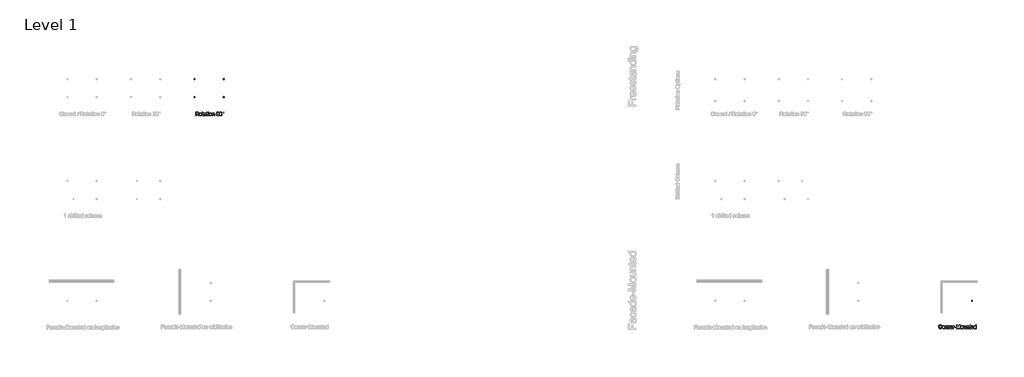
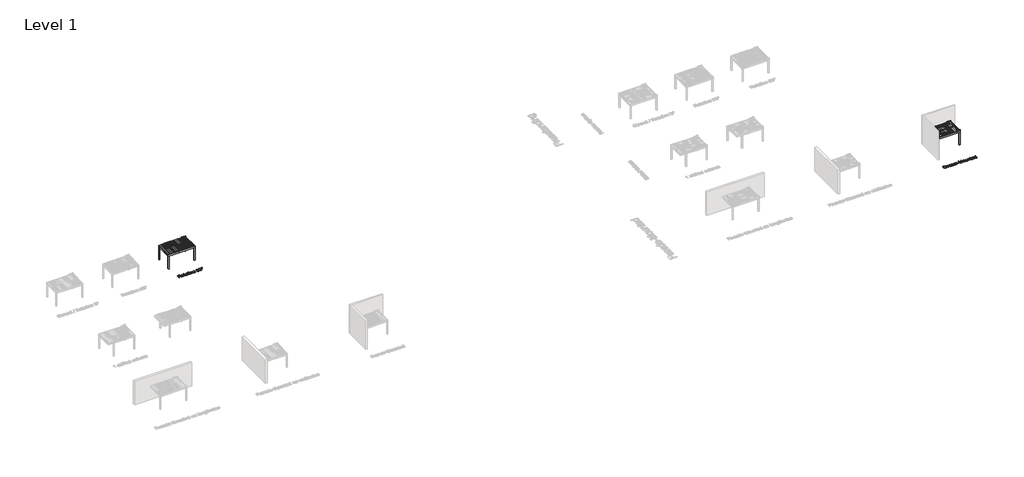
# One storey, part 32 of 47: 4 proxies.
"""IFC4 building model written with IfcOpenShell, lengths in millimetres."""

from ifc_helpers import new_model, si_unit, origin, origin_with_axes, place, context, project, spatial, polyline, outline, extrude, transform, mapped, element, save
from components import generic_models_7f1426e4, generic_models_a48c7f24

model = new_model("IFC4")

# Units and contexts
model_context = context("Model", 3, world=origin())
ifc_project = project(units=[si_unit("LENGTHUNIT", "METRE", prefix="MILLI")], contexts=[model_context])

# Site, building, storey
site = spatial("IfcSite", under=ifc_project)
building = spatial("IfcBuilding", under=site)
storey = spatial("IfcBuildingStorey", under=building, Name="Level 1", Elevation=0.0)

# Proxies
placement = place(None, origin())
generic_models_shape = generic_models_7f1426e4(model_context)
element("IfcBuildingElementProxy", 1, Name="Renson_Algarve_Single : Algarve - Single", ObjectType="Renson_Algarve_Single : Algarve - Single", at=placement, inside=storey, context=model_context, shape_type="MappedRepresentation", body=[
    mapped(generic_models_shape, transform((7528.165057, 67778.5861401, 0.0), x_axis=(1.0, 0.0, 0.0), y_axis=(0.0, 1.0, 0.0), z_axis=(0.0, 0.0, 1.0))),
])
generic_models_2_shape = generic_models_a48c7f24(model_context)
element("IfcBuildingElementProxy", 2, Name="Renson_Algarve_Single Unit With Intermediate Beam : Algarve - Single Unit With Intermediate Beam", ObjectType="Renson_Algarve_Single Unit With Intermediate Beam : Algarve - Single Unit With Intermediate Beam", at=placement, inside=storey, context=model_context, shape_type="MappedRepresentation", body=[
    mapped(generic_models_2_shape, transform((106674.7862597, 41397.1593685, 0.0), x_axis=(1.0, 0.0, 0.0), y_axis=(0.0, 1.0, 0.0), z_axis=(0.0, 0.0, 1.0))),
])
element("IfcBuildingElementProxy", 3, Name="500mm Arial", ObjectType="500mm Arial", at=placement, inside=storey, context=model_context, shape_type="SweptSolid", body=[
    extrude(outline(polyline([(5745.311698, 64128.5861401), (5745.311698, 64630.8676909), (5961.7489385, 64630.8676909), (6019.920279, 64627.4801108), (6062.2420369, 64617.3173707), (6093.1747813, 64598.555389), (6117.1790815, 64569.370084), (6132.5841401, 64533.1796927), (6137.7191596, 64493.402452), (6135.5923418, 64467.6047271), (6129.2118884, 64443.9223237), (6118.5777995, 64422.3552417), (6103.690075, 64402.9034812), (6084.3571097, 64386.187843), (6060.3872985, 64372.8291281), (6031.7806413, 64362.8273364), (5998.5371381, 64356.1824678), (6019.2305003, 64342.6628045), (6034.2216916, 64329.3270822), (6085.1120343, 64264.7024784), (6168.8665018, 64128.5861401), (6095.9032394, 64128.5861401), (6030.5428716, 64232.6967448), (5983.3313489, 64301.6133052), (5965.7803121, 64321.7088592), (5950.1606557, 64334.1708618), (5920.3009004, 64346.1270266), (5883.8805829, 64348.3343186), (5808.0968919, 64348.3343186), (5808.0968919, 64128.5861401), (5745.311698, 64128.5861401)]), holes=[polyline([(5808.0968919, 64411.1195124), (5948.627814, 64411.1195124), (5988.9875346, 64413.3421328), (6020.3034894, 64420.009994), (6043.878594, 64431.56762), (6061.0157636, 64448.4595349), (6071.4544152, 64468.8923141), (6074.9339657, 64491.0725327), (6073.2746646, 64507.129049), (6068.2967614, 64521.6987088), (6060.000256, 64534.7815123), (6048.3851484, 64546.3774593), (6033.1831914, 64555.8734133), (6014.1261376, 64562.6562376), (5964.4467398, 64568.082497), (5808.0968919, 64568.082497), (5808.0968919, 64411.1195124)])]), origin_with_axes(), (0.0, 0.0, 1.0), 5.0),
    extrude(outline(polyline([(6224.0488011, 64313.0176471), (6227.4440453, 64360.788657), (6237.6297781, 64401.9531194), (6254.6059993, 64436.5110343), (6278.3727091, 64464.4624017), (6302.3003672, 64482.3276711), (6328.7112287, 64495.0885778), (6357.6052938, 64502.7451219), (6388.9825623, 64505.2973032), (6423.6209514, 64502.1894668), (6454.9407383, 64492.8659574), (6482.9419231, 64477.3267753), (6507.6245057, 64455.5719202), (6527.7698771, 64428.3371562), (6542.159428, 64396.3582474), (6550.7931586, 64359.6351936), (6553.6710688, 64318.167995), (6548.5820345, 64254.7390076), (6542.2207417, 64228.7036923), (6533.3149317, 64206.4544958), (6521.9757356, 64187.2364936), (6508.3142845, 64170.2947613), (6492.3305782, 64155.6292989), (6474.0246168, 64143.2401063), (6433.2970143, 64126.3635197), (6388.9825623, 64120.7379909), (6353.8383354, 64123.834331), (6322.2273086, 64133.1233514), (6294.1494817, 64148.605052), (6269.6048548, 64170.2794329), (6249.6740813, 64197.7786121), (6235.4378145, 64230.7347075), (6226.8960545, 64269.1477191), (6224.0488011, 64313.0176471)]), holes=[polyline([(6286.8339949, 64313.1402744), (6288.6504123, 64282.686543), (6294.0996644, 64256.3178345), (6303.1817511, 64234.0341491), (6315.8966726, 64215.8354867), (6331.3630448, 64201.6988546), (6348.6994838, 64191.6012602), (6367.9059896, 64185.5427036), (6388.9825623, 64183.5231847), (6409.951836, 64185.5541999), (6429.0816997, 64191.6472455), (6446.3721535, 64201.8023214), (6461.8231973, 64216.0194277), (6474.5381188, 64234.398199), (6483.6202055, 64257.0382701), (6489.0694576, 64283.939641), (6490.8858749, 64315.1023117), (6489.0579613, 64344.5903529), (6483.5742203, 64370.2692826), (6474.434652, 64392.1391007), (6461.6392563, 64410.1998074), (6446.130731, 64424.3364395), (6428.8517735, 64434.4340339), (6409.8023839, 64440.4925905), (6388.9825623, 64442.5121094), (6367.9059896, 64440.5002547), (6348.6994838, 64434.4646907), (6331.3630448, 64424.4054174), (6315.8966726, 64410.3224348), (6303.1817511, 64392.1774218), (6294.0996644, 64369.9320574), (6288.6504123, 64343.5863416), (6286.8339949, 64313.1402744)])]), origin_with_axes(), (0.0, 0.0, 1.0), 5.0),
    extrude(outline(polyline([(6757.7229488, 64180.9480108), (6765.571098, 64126.7467302), (6718.60483, 64120.7379909), (6688.4691632, 64123.3438217), (6665.9977046, 64131.1613141), (6650.1174652, 64143.2094494), (6639.7554557, 64158.5072091), (6634.0532847, 64184.7801149), (6632.1525611, 64229.7536888), (6632.1525611, 64434.6639601), (6585.0636657, 64434.6639601), (6585.0636657, 64497.449154), (6632.1525611, 64497.449154), (6632.1525611, 64587.0897335), (6694.9377549, 64624.0005603), (6694.9377549, 64497.449154), (6757.7229488, 64497.449154), (6757.7229488, 64434.6639601), (6694.9377549, 64434.6639601), (6694.9377549, 64231.5930988), (6698.2486929, 64199.2194832), (6708.9785844, 64187.7538277), (6730.3770538, 64183.5231847), (6757.7229488, 64180.9480108)])), origin_with_axes(), (0.0, 0.0, 1.0), 5.0),
    extrude(outline(polyline([(7055.9526195, 64175.6750355), (7025.9549085, 64149.9539527), (6995.0681493, 64133.1233514), (6962.5872348, 64123.834331), (6927.8070579, 64120.7379909), (6899.8518583, 64122.6003935), (6875.3378883, 64128.1876013), (6854.2651478, 64137.4996143), (6836.6336367, 64150.5364325), (6822.7116025, 64166.4703214), (6812.7672923, 64184.4735466), (6806.8007062, 64204.5461079), (6804.8118442, 64226.6880055), (6807.8162138, 64252.7156567), (6816.8293227, 64276.3520749), (6830.7321964, 64296.5855846), (6848.4058606, 64312.4045104), (6869.1758649, 64324.3606752), (6892.367759, 64333.0059021), (6946.691667, 64342.4482067), (7010.8870751, 64352.3810205), (7055.5847375, 64364.030617), (7055.9526195, 64378.0101329), (7051.6300061, 64406.0304782), (7038.6621658, 64424.3632643), (7025.5870265, 64432.303384), (7009.6608018, 64437.9748981), (6969.255096, 64442.5121094), (6931.8537598, 64439.4924113), (6905.7341382, 64430.4333172), (6887.9225182, 64413.679358), (6875.4451872, 64387.5750647), (6812.6599934, 64395.423214), (6823.5584975, 64429.7588669), (6839.8219474, 64456.7368798), (6862.9678562, 64477.3689284), (6894.5137373, 64492.666688), (6933.0953616, 64502.1396494), (6977.3484999, 64505.2973032), (7019.7928851, 64502.5075314), (7053.4387592, 64494.138216), (7078.8072885, 64481.5535861), (7096.419639, 64466.1178707), (7108.0998923, 64447.0339922), (7115.6721301, 64423.5048729), (7118.7378134, 64368.5678283), (7118.7378134, 64290.454218), (7121.926124, 64181.3772064), (7126.6472763, 64154.4145219), (7134.4341118, 64128.5861401), (7071.648918, 64128.5861401), (7061.5934768, 64150.4138052), (7055.9526195, 64175.6750355)]), holes=[polyline([(7055.9526195, 64301.2454232), (7013.7688174, 64290.7914432), (6954.6624435, 64281.9929321), (6900.6451039, 64271.8148636), (6886.588946, 64264.8557625), (6876.1809512, 64255.2601738), (6869.7430163, 64243.7638615), (6867.597038, 64231.1025895), (6872.272205, 64212.4325782), (6886.2977061, 64197.1348186), (6909.3669729, 64186.9260932), (6941.173437, 64183.5231847), (6974.8959533, 64187.2786468), (7004.6943949, 64198.5450329), (7028.8519792, 64215.1457079), (7045.6519237, 64234.9040367), (7053.1015341, 64255.2601738), (7055.5847375, 64283.4644601), (7055.9526195, 64301.2454232)])]), origin_with_axes(), (0.0, 0.0, 1.0), 5.0),
    extrude(outline(polyline([(7338.4859918, 64180.9480108), (7346.3341411, 64126.7467302), (7299.367873, 64120.7379909), (7269.2322062, 64123.3438217), (7246.7607477, 64131.1613141), (7230.8805082, 64143.2094494), (7220.5184987, 64158.5072091), (7214.8163278, 64184.7801149), (7212.9156041, 64229.7536888), (7212.9156041, 64434.6639601), (7165.8267088, 64434.6639601), (7165.8267088, 64497.449154), (7212.9156041, 64497.449154), (7212.9156041, 64587.0897335), (7275.700798, 64624.0005603), (7275.700798, 64497.449154), (7338.4859918, 64497.449154), (7338.4859918, 64434.6639601), (7275.700798, 64434.6639601), (7275.700798, 64231.5930988), (7279.0117359, 64199.2194832), (7289.7416275, 64187.7538277), (7311.1400968, 64183.5231847), (7338.4859918, 64180.9480108)])), origin_with_axes(), (0.0, 0.0, 1.0), 5.0),
    extrude(outline(polyline([(7401.2711857, 64568.082497), (7401.2711857, 64630.8676909), (7464.0563795, 64630.8676909), (7464.0563795, 64568.082497), (7401.2711857, 64568.082497)])), origin_with_axes(), (0.0, 0.0, 1.0), 5.0),
    extrude(outline(polyline([(7401.2711857, 64128.5861401), (7401.2711857, 64497.449154), (7464.0563795, 64497.449154), (7464.0563795, 64128.5861401), (7401.2711857, 64128.5861401)])), origin_with_axes(), (0.0, 0.0, 1.0), 5.0),
    extrude(outline(polyline([(7542.5378718, 64313.0176471), (7545.9331161, 64360.788657), (7556.1188488, 64401.9531194), (7573.09507, 64436.5110343), (7596.8617798, 64464.4624017), (7620.7894379, 64482.3276711), (7647.2002994, 64495.0885778), (7676.0943645, 64502.7451219), (7707.471633, 64505.2973032), (7742.1100221, 64502.1894668), (7773.429809, 64492.8659574), (7801.4309938, 64477.3267753), (7826.1135764, 64455.5719202), (7846.2589478, 64428.3371562), (7860.6484987, 64396.3582474), (7869.2822293, 64359.6351936), (7872.1601395, 64318.167995), (7867.0711052, 64254.7390076), (7860.7098124, 64228.7036923), (7851.8040024, 64206.4544958), (7840.4648063, 64187.2364936), (7826.8033552, 64170.2947613), (7810.8196489, 64155.6292989), (7792.5136875, 64143.2401063), (7751.786085, 64126.3635197), (7707.471633, 64120.7379909), (7672.3274061, 64123.834331), (7640.7163793, 64133.1233514), (7612.6385524, 64148.605052), (7588.0939256, 64170.2794329), (7568.163152, 64197.7786121), (7553.9268852, 64230.7347075), (7545.3851252, 64269.1477191), (7542.5378718, 64313.0176471)]), holes=[polyline([(7605.3230657, 64313.1402744), (7607.139483, 64282.686543), (7612.5887351, 64256.3178345), (7621.6708218, 64234.0341491), (7634.3857433, 64215.8354867), (7649.8521155, 64201.6988546), (7667.1885545, 64191.6012602), (7686.3950603, 64185.5427036), (7707.471633, 64183.5231847), (7728.4409067, 64185.5541999), (7747.5707705, 64191.6472455), (7764.8612242, 64201.8023214), (7780.312268, 64216.0194277), (7793.0271895, 64234.398199), (7802.1092762, 64257.0382701), (7807.5585283, 64283.939641), (7809.3749457, 64315.1023117), (7807.547032, 64344.5903529), (7802.063291, 64370.2692826), (7792.9237227, 64392.1391007), (7780.128327, 64410.1998074), (7764.6198017, 64424.3364395), (7747.3408442, 64434.4340339), (7728.2914547, 64440.4925905), (7707.471633, 64442.5121094), (7686.3950603, 64440.5002547), (7667.1885545, 64434.4646907), (7649.8521155, 64424.4054174), (7634.3857433, 64410.3224348), (7621.6708218, 64392.1774218), (7612.5887351, 64369.9320574), (7607.139483, 64343.5863416), (7605.3230657, 64313.1402744)])]), origin_with_axes(), (0.0, 0.0, 1.0), 5.0),
    extrude(outline(polyline([(7942.7934826, 64128.5861401), (7942.7934826, 64497.449154), (8005.5786764, 64497.449154), (8005.5786764, 64445.9456746), (8027.391013, 64471.9120121), (8053.5872768, 64490.4593961), (8084.1674676, 64501.5878264), (8119.1315856, 64505.2973032), (8150.0796584, 64502.308262), (8178.4219005, 64493.3411384), (8202.0583187, 64479.5149067), (8218.8889199, 64461.9485414), (8230.3085902, 64440.6880278), (8237.7122154, 64415.779351), (8241.0231533, 64355.0788218), (8241.0231533, 64128.5861401), (8178.2379595, 64128.5861401), (8178.2379595, 64346.6175359), (8176.4292063, 64379.083122), (8171.0029469, 64402.1677172), (8160.993491, 64418.7070786), (8145.4351482, 64431.5369632), (8125.4928784, 64439.7683228), (8102.3316411, 64442.5121094), (8083.2669232, 64440.9716035), (8065.55877, 64436.3500859), (8049.2071818, 64428.6475567), (8034.2121584, 64417.8640157), (8021.68501, 64402.7731897), (8012.7370469, 64382.1488053), (8007.368269, 64355.9908626), (8005.5786764, 64324.2993616), (8005.5786764, 64128.5861401), (7942.7934826, 64128.5861401)])), origin_with_axes(), (0.0, 0.0, 1.0), 5.0),
    extrude(outline(polyline([(8515.7083764, 64254.1565278), (8578.4935702, 64262.0046771), (8589.2234618, 64226.3661088), (8606.6978565, 64202.1012255), (8630.4875589, 64188.1676949), (8660.1633732, 64183.5231847), (8686.7888326, 64186.512226), (8710.9924022, 64195.4793496), (8731.1032846, 64209.443537), (8745.4506824, 64227.4237695), (8756.3185297, 64251.0601877), (8765.9907604, 64281.9929321), (8772.7965774, 64317.4935447), (8775.065183, 64354.8335672), (8774.697301, 64367.0963003), (8752.946278, 64340.547483), (8724.4814087, 64319.5168956), (8691.3567007, 64305.8132913), (8655.6261619, 64301.2454232), (8625.8008956, 64304.035195), (8598.3745264, 64312.4045104), (8573.3470544, 64326.3533694), (8550.7184796, 64345.881772), (8531.9679942, 64369.9703784), (8518.5747903, 64397.5998491), (8510.5388679, 64428.770184), (8507.8602272, 64463.4813831), (8510.6691595, 64499.3498776), (8519.0959564, 64531.5395522), (8533.140618, 64560.0504068), (8552.8031442, 64584.8824415), (8576.6963134, 64605.0009881), (8603.4329038, 64619.3713785), (8633.0129155, 64627.9936128), (8665.4363484, 64630.8676909), (8689.3755028, 64629.2275503), (8712.2646607, 64624.3071286), (8734.1038221, 64616.1064258), (8754.8929869, 64604.6254419), (8773.9385444, 64590.1094315), (8790.5468836, 64572.8036493), (8804.7180046, 64552.7080953), (8816.4519074, 64529.8227695), (8825.6527894, 64502.8294281), (8832.224848, 64470.4098273), (8837.4824948, 64389.2918474), (8832.2401764, 64303.2841026), (8825.6872784, 64267.6033812), (8816.5132211, 64236.8047604), (8804.7524936, 64210.1371478), (8790.4395847, 64186.8494511), (8773.5744945, 64166.9416702), (8754.1572229, 64150.4138052), (8732.5786447, 64137.4306364), (8709.2296343, 64128.1569445), (8684.1101918, 64122.5927293), (8657.2203172, 64120.7379909), (8629.0236951, 64122.9261224), (8603.5402027, 64129.4905167), (8580.7698401, 64140.431174), (8560.7126071, 64155.7480941), (8543.8743416, 64175.0274099), (8530.7608814, 64197.8552541), (8521.3722263, 64224.2316268), (8515.7083764, 64254.1565278)]), holes=[polyline([(8774.697301, 64464.9529111), (8773.003511, 64487.4550264), (8767.9221409, 64507.5045952), (8759.4531908, 64525.1016173), (8747.5966607, 64540.2460927), (8732.9350303, 64552.4245196), (8716.0507796, 64561.123396), (8696.9439085, 64566.3427218), (8675.614417, 64568.082497), (8653.6028109, 64566.2085981), (8633.6758695, 64560.5869014), (8615.8335927, 64551.2174068), (8600.0759806, 64538.1001144), (8587.2001108, 64522.001445), (8578.0030609, 64503.6878195), (8572.484831, 64483.1592377), (8570.645421, 64460.4156998), (8572.3851963, 64440.0174096), (8577.6045221, 64421.6194777), (8586.3033984, 64405.2219042), (8598.4818253, 64390.824689), (8613.633965, 64379.1022825), (8631.2539797, 64370.729135), (8651.3418695, 64365.7052465), (8673.8976343, 64364.030617), (8694.9320538, 64365.7052465), (8714.0121002, 64370.729135), (8731.1377735, 64379.1022825), (8746.3090737, 64390.824689), (8758.7289231, 64405.5054799), (8767.6002442, 64422.7537805), (8772.9230368, 64442.5695909), (8774.697301, 64464.9529111)])]), origin_with_axes(), (0.0, 0.0, 1.0), 5.0),
    extrude(outline(polyline([(8892.4195395, 64375.6802136), (8897.0333928, 64456.0777579), (8910.8749529, 64520.196524), (8921.221634, 64546.3966198), (8933.8062639, 64569.0175304), (8948.6288426, 64588.0592558), (8965.6893702, 64603.5217959), (8985.045328, 64615.485625), (9006.7541979, 64624.0312171), (9030.8159796, 64629.1585724), (9057.2306733, 64630.8676909), (9095.9195964, 64626.8209889), (9130.5618177, 64614.6808831), (9159.5325248, 64594.9225543), (9181.2069057, 64568.0211834), (9197.5776545, 64534.2066967), (9210.6374653, 64493.7090203), (9219.1907217, 64442.2821831), (9222.0418071, 64375.6802136), (9217.473939, 64295.7425217), (9203.7703347, 64231.7770398), (9193.5041278, 64205.5654476), (9180.9769794, 64182.9100481), (9166.1888896, 64163.8108412), (9149.1398584, 64148.2678269), (9129.7609079, 64136.2235236), (9107.9830602, 64127.6204499), (9083.8063153, 64122.4586057), (9057.2306733, 64120.7379909), (9022.6497657, 64123.7270321), (8991.9929328, 64132.6941557), (8965.2601745, 64147.6393618), (8942.4514908, 64168.5626503), (8920.5625121, 64206.3855179), (8904.9275273, 64253.5127343), (8895.5465364, 64309.9442995), (8892.4195395, 64375.6802136)]), holes=[polyline([(8955.2047333, 64375.8028409), (8957.0441433, 64321.222182), (8962.5623732, 64277.0418536), (8971.7594231, 64243.2618558), (8984.6352929, 64219.8821886), (9000.208964, 64203.9751244), (9017.4994178, 64192.6129357), (9036.5066542, 64185.7956225), (9057.2306733, 64183.5231847), (9077.9546924, 64185.8032867), (9096.9619288, 64192.6435925), (9114.2523825, 64204.0441023), (9129.8260537, 64220.0048159), (9142.7019235, 64243.4228042), (9151.8989734, 64277.1951378), (9157.4172033, 64321.3218167), (9159.2566133, 64375.8028409), (9157.478517, 64428.9387966), (9152.144228, 64472.3412078), (9143.2537465, 64506.0100746), (9130.8070723, 64529.9453969), (9115.4939843, 64546.6303782), (9098.0042611, 64558.548222), (9078.3379028, 64565.6989283), (9056.4949093, 64568.082497), (9035.8781892, 64565.982504), (9017.1928495, 64559.6825248), (9000.4388903, 64549.1825595), (8985.6163116, 64534.4826081), (8972.3112461, 64508.4243002), (8962.8076279, 64473.2915696), (8957.1054569, 64429.0844165), (8955.2047333, 64375.8028409)])]), origin_with_axes(), (0.0, 0.0, 1.0), 5.0),
    extrude(outline(polyline([(9292.6751502, 64544.6606767), (9294.4034292, 64563.4916363), (9299.588266, 64580.8663964), (9308.2296608, 64596.7849569), (9320.3276135, 64611.2473178), (9334.847456, 64623.2647963), (9350.7545202, 64631.8487095), (9368.0488061, 64636.9990575), (9386.7303136, 64638.7158401), (9405.6685722, 64636.9990575), (9423.1199743, 64631.8487095), (9439.0845201, 64623.2647963), (9453.5622094, 64611.2473178), (9465.5796879, 64596.7849569), (9474.1636012, 64580.8663964), (9479.3139491, 64563.4916363), (9481.0307317, 64544.6606767), (9479.3024528, 64525.8718702), (9474.1176159, 64508.5009422), (9465.4762211, 64492.5478928), (9453.3782684, 64478.0127219), (9438.8430975, 64465.9147692), (9422.8900481, 64457.2733744), (9405.5191201, 64452.0885375), (9386.7303136, 64450.3602586), (9368.0488061, 64452.0770412), (9350.7545202, 64457.2273892), (9334.847456, 64465.8113024), (9320.3276135, 64477.8287809), (9308.2296608, 64492.3064702), (9299.588266, 64508.271016), (9294.4034292, 64525.7224181), (9292.6751502, 64544.6606767)]), holes=[polyline([(9331.9158964, 64544.5380493), (9335.9472699, 64523.4154915), (9348.0413905, 64505.6651852), (9365.837682, 64493.6170498), (9386.9755683, 64489.6010047), (9407.9295136, 64493.6170498), (9425.6644915, 64505.6651852), (9437.7586121, 64523.4154915), (9441.7899856, 64544.5380493), (9437.7586121, 64565.6606072), (9425.6644915, 64583.4109135), (9407.9295136, 64595.4590488), (9386.9755683, 64599.475094), (9365.837682, 64595.4590488), (9348.0413905, 64583.4109135), (9335.9472699, 64565.6606072), (9331.9158964, 64544.5380493)])]), origin_with_axes(), (0.0, 0.0, 1.0), 5.0),
])
element("IfcBuildingElementProxy", 4, Name="500mm Arial", ObjectType="500mm Arial", at=placement, inside=storey, context=model_context, shape_type="SweptSolid", body=[
    extrude(outline(polyline([(104559.4019044, 36050.7047635), (104622.1870982, 36034.5179557), (104609.7634167, 35995.4726468), (104593.2163911, 35961.3554239), (104572.5460215, 35932.1662868), (104547.7523078, 35907.9052357), (104519.3947374, 35888.8328535), (104488.0327973, 35875.2097233), (104453.6664876, 35867.0358453), (104416.2958082, 35864.3112192), (104378.009256, 35866.3728913), (104343.4705016, 35872.5579073), (104312.679545, 35882.8662674), (104285.6363863, 35897.2979715), (104261.9693113, 35915.6384218), (104241.3066059, 35937.6730204), (104223.6482701, 35963.4017675), (104208.9943039, 35992.8246629), (104197.4864953, 36024.6694481), (104189.266632, 36057.6638645), (104184.334714, 36091.8079122), (104182.6907413, 36127.1015911), (104184.5493118, 36164.970444), (104190.1250233, 36200.340765), (104199.4178758, 36233.2125541), (104212.4278692, 36263.5858113), (104228.8637638, 36290.958531), (104248.4343195, 36314.8287076), (104271.1395364, 36335.196341), (104296.9794145, 36352.0614312), (104325.0764018, 36365.2860225), (104354.5529467, 36374.7321591), (104385.4090491, 36380.3998411), (104417.6447089, 36382.2890684), (104453.5553566, 36379.844186), (104486.4846272, 36372.5095387), (104516.4325209, 36360.2851266), (104543.3990376, 36343.1709496), (104566.9396532, 36321.6191961), (104586.6098436, 36296.0820542), (104602.4096089, 36266.5595241), (104614.338949, 36233.0516057), (104551.5537551, 36218.0910713), (104541.6669265, 36242.7813181), (104529.7874037, 36263.8770513), (104515.9151868, 36281.3782707), (104500.0502758, 36295.2849766), (104482.1007001, 36305.8807445), (104461.9744893, 36313.4491501), (104439.6716433, 36317.9901935), (104415.1921622, 36319.5038746), (104387.026197, 36317.825413), (104361.2667931, 36312.7900282), (104337.9139506, 36304.3977202), (104316.9676695, 36292.648489), (104298.692365, 36278.0711649), (104283.3524522, 36261.1945784), (104270.9479312, 36242.0187294), (104261.4788019, 36220.5436179), (104249.4766518, 36174.5890253), (104245.4759351, 36127.2242185), (104250.2124158, 36069.2214906), (104264.4218579, 36019.0669119), (104275.2130631, 35997.4116915), (104288.6407559, 35978.6765345), (104304.7049364, 35962.8614408), (104323.4056044, 35949.9664104), (104365.0835688, 35932.8139124), (104410.0418143, 35927.0964131), (104437.3378919, 35929.043122), (104462.4496702, 35934.8832486), (104485.3771491, 35944.6167931), (104506.1203287, 35958.2437553), (104524.1886996, 35975.7028217), (104539.0917525, 35996.9326785), (104550.8294874, 36021.9333258), (104559.4019044, 36050.7047635)])), origin_with_axes(), (0.0, 0.0, 1.0), 5.0),
    extrude(outline(polyline([(104684.972292, 36056.5908754), (104688.3675363, 36104.3618853), (104698.553269, 36145.5263477), (104715.5294903, 36180.0842626), (104739.2962, 36208.0356301), (104763.2238581, 36225.9008995), (104789.6347197, 36238.6618062), (104818.5287847, 36246.3183502), (104849.9060532, 36248.8705315), (104884.5444423, 36245.7626951), (104915.8642293, 36236.4391858), (104943.865414, 36220.9000036), (104968.5479967, 36199.1451485), (104988.693368, 36171.9103846), (105003.082919, 36139.9314757), (105011.7166495, 36103.208422), (105014.5945597, 36061.7412233), (105009.5055255, 35998.312236), (105003.1442326, 35972.2769206), (104994.2384227, 35950.0277241), (104982.8992266, 35930.809722), (104969.2377754, 35913.8679897), (104953.2540691, 35899.2025272), (104934.9481078, 35886.8133346), (104894.2205052, 35869.9367481), (104849.9060532, 35864.3112192), (104814.7618264, 35867.4075594), (104783.1507995, 35876.6965797), (104755.0729726, 35892.1782804), (104730.5283458, 35913.8526613), (104710.5975723, 35941.3518404), (104696.3613055, 35974.3079358), (104687.8195454, 36012.7209475), (104684.972292, 36056.5908754)]), holes=[polyline([(104747.7574859, 36056.7135027), (104749.5739032, 36026.2597713), (104755.0231553, 35999.8910629), (104764.105242, 35977.6073774), (104776.8201635, 35959.408715), (104792.2865357, 35945.2720829), (104809.6229747, 35935.1744886), (104828.8294806, 35929.115932), (104849.9060532, 35927.0964131), (104870.8753269, 35929.1274283), (104890.0051907, 35935.2204738), (104907.2956445, 35945.3755497), (104922.7466883, 35959.592656), (104935.4616097, 35977.9714273), (104944.5436965, 36000.6114985), (104949.9929485, 36027.5128693), (104951.8093659, 36058.67554), (104949.9814522, 36088.1635812), (104944.4977112, 36113.8425109), (104935.3581429, 36135.7123291), (104922.5627473, 36153.7730358), (104907.0542219, 36167.9096679), (104889.7752644, 36178.0072622), (104870.7258749, 36184.0658188), (104849.9060532, 36186.0853377), (104828.8294806, 36184.073483), (104809.6229747, 36178.037919), (104792.2865357, 36167.9786457), (104776.8201635, 36153.8956631), (104764.105242, 36135.7506501), (104755.0231553, 36113.5052857), (104749.5739032, 36087.1595699), (104747.7574859, 36056.7135027)])]), origin_with_axes(), (0.0, 0.0, 1.0), 5.0),
    extrude(outline(polyline([(105085.2279028, 35872.1593685), (105085.2279028, 36241.0223823), (105140.1649474, 36241.0223823), (105140.1649474, 36186.4532197), (105160.4597708, 36218.0910713), (105179.1604389, 36236.7304257), (105197.9224207, 36245.8355051), (105218.401185, 36248.8705315), (105249.6711546, 36244.0267519), (105281.4316336, 36229.4954131), (105260.4623598, 36173.2094679), (105238.3894401, 36182.8663702), (105216.3165204, 36186.0853377), (105197.5698671, 36182.9889976), (105180.8159079, 36173.6999772), (105167.2809161, 36158.9233837), (105158.1911652, 36139.3643243), (105150.5576138, 36104.2929074), (105148.0130966, 36066.0331799), (105148.0130966, 35872.1593685), (105085.2279028, 35872.1593685)])), origin_with_axes(), (0.0, 0.0, 1.0), 5.0),
    extrude(outline(polyline([(105320.6723797, 35872.1593685), (105320.6723797, 36241.0223823), (105383.4575736, 36241.0223823), (105383.4575736, 36189.518903), (105405.2699102, 36215.4852405), (105431.4661739, 36234.0326244), (105462.0463648, 36245.1610547), (105497.0104827, 36248.8705315), (105527.9585556, 36245.8814903), (105556.3007976, 36236.9143667), (105579.9372158, 36223.088135), (105596.7678171, 36205.5217698), (105608.1874874, 36184.2612561), (105615.5911125, 36159.3525794), (105618.9020505, 36098.6520502), (105618.9020505, 35872.1593685), (105556.1168566, 35872.1593685), (105556.1168566, 36090.1907643), (105554.3081035, 36122.6563504), (105548.881844, 36145.7409455), (105538.8723881, 36162.2803069), (105523.3140454, 36175.1101915), (105503.3717756, 36183.3415511), (105480.2105383, 36186.0853377), (105461.1458203, 36184.5448318), (105443.4376672, 36179.9233143), (105427.0860789, 36172.220785), (105412.0910555, 36161.437244), (105399.5639072, 36146.346418), (105390.615944, 36125.7220336), (105385.2471662, 36099.5640909), (105383.4575736, 36067.8725899), (105383.4575736, 35872.1593685), (105320.6723797, 35872.1593685)])), origin_with_axes(), (0.0, 0.0, 1.0), 5.0),
    extrude(outline(polyline([(105963.4848526, 35982.0334577), (106025.0437731, 35974.1853085), (106015.6053007, 35949.5295506), (106002.8635545, 35927.8015202), (105986.8185346, 35909.0012174), (105967.4702409, 35893.1286422), (105945.0179429, 35880.5210197), (105919.6609099, 35871.515575), (105891.3991421, 35866.1123082), (105860.2326393, 35864.3112192), (105821.2754689, 35867.4190557), (105786.5642698, 35876.742565), (105756.099042, 35892.2817472), (105729.8797857, 35914.0366023), (105708.7955488, 35941.4016577), (105693.7353796, 35973.7714412), (105684.6992781, 36011.1459527), (105681.6872443, 36053.5251921), (105684.729935, 36097.3414706), (105693.858007, 36135.9614158), (105709.0714603, 36169.3850279), (105730.370295, 36197.6123069), (105756.5205735, 36220.0377802), (105786.2883583, 36236.0559754), (105819.6736493, 36245.6668925), (105856.6764467, 36248.8705315), (105892.4874596, 36245.6745567), (105924.8725715, 36236.0866322), (105953.8317823, 36220.106758), (105979.3650921, 36197.7349342), (106000.2079064, 36169.5689689), (106015.0956309, 36136.2066705), (106024.0282655, 36097.6480389), (106027.0058104, 36053.8930741), (106026.6379285, 36036.9705023), (105744.4724382, 36036.9705023), (105748.109105, 36011.9162056), (105755.3402854, 35989.9735774), (105766.1659796, 35971.1426178), (105780.5861873, 35955.4233267), (105797.8038311, 35943.030302), (105817.0218333, 35934.1781415), (105838.2401938, 35928.8668452), (105861.4589126, 35927.0964131), (105894.8748605, 35930.3766942), (105923.0178331, 35940.2175376), (105945.8878305, 35957.2320799), (105963.4848526, 35982.0334577)]), holes=[polyline([(105744.4724382, 36099.7556962), (105964.2206166, 36099.7556962), (105955.7286739, 36132.9263894), (105939.0820136, 36156.6547781), (105921.9601724, 36169.5306479), (105902.4777551, 36178.7276978), (105880.6347616, 36184.2459277), (105856.431192, 36186.0853377), (105814.1094342, 36180.2145542), (105795.6961739, 36172.8760748), (105779.1146594, 36162.6022037), (105765.2002893, 36149.8681217), (105754.7884624, 36135.1490098), (105747.8791787, 36118.4448679), (105744.4724382, 36099.7556962)])]), origin_with_axes(), (0.0, 0.0, 1.0), 5.0),
    extrude(outline(polyline([(106089.7910043, 35872.1593685), (106089.7910043, 36241.0223823), (106144.7280489, 36241.0223823), (106144.7280489, 36186.4532197), (106165.0228723, 36218.0910713), (106183.7235404, 36236.7304257), (106202.4855221, 36245.8355051), (106222.9642865, 36248.8705315), (106254.2342561, 36244.0267519), (106285.9947351, 36229.4954131), (106265.0254613, 36173.2094679), (106242.9525416, 36182.8663702), (106220.8796219, 36186.0853377), (106202.1329686, 36182.9889976), (106185.3790094, 36173.6999772), (106171.8440176, 36158.9233837), (106162.7542667, 36139.3643243), (106155.1207153, 36104.2929074), (106152.5761981, 36066.0331799), (106152.5761981, 35872.1593685), (106089.7910043, 35872.1593685)])), origin_with_axes(), (0.0, 0.0, 1.0), 5.0),
    extrude(outline(polyline([(106293.8428843, 36021.2742038), (106293.8428843, 36084.0593977), (106490.046615, 36084.0593977), (106490.046615, 36021.2742038), (106293.8428843, 36021.2742038)])), origin_with_axes(), (0.0, 0.0, 1.0), 5.0),
    extrude(outline(polyline([(106568.5281073, 35872.1593685), (106568.5281073, 36374.4409192), (106676.5627866, 36374.4409192), (106779.3244906, 36020.4158125), (106800.0485096, 35946.4715315), (106822.4893114, 36026.5471791), (106923.5342327, 36374.4409192), (107031.5689119, 36374.4409192), (107031.5689119, 35872.1593685), (106968.7837181, 35872.1593685), (106968.7837181, 36311.6557254), (106842.6001938, 35872.1593685), (106757.4968255, 35872.1593685), (106631.3133012, 36311.6557254), (106631.3133012, 35872.1593685), (106568.5281073, 35872.1593685)])), origin_with_axes(), (0.0, 0.0, 1.0), 5.0),
    extrude(outline(polyline([(107117.8985535, 36056.5908754), (107121.2937977, 36104.3618853), (107131.4795305, 36145.5263477), (107148.4557517, 36180.0842626), (107172.2224614, 36208.0356301), (107196.1501195, 36225.9008995), (107222.5609811, 36238.6618062), (107251.4550461, 36246.3183502), (107282.8323146, 36248.8705315), (107317.4707038, 36245.7626951), (107348.7904907, 36236.4391858), (107376.7916755, 36220.9000036), (107401.4742581, 36199.1451485), (107421.6196294, 36171.9103846), (107436.0091804, 36139.9314757), (107444.642911, 36103.208422), (107447.5208212, 36061.7412233), (107442.4317869, 35998.312236), (107436.0704941, 35972.2769206), (107427.1646841, 35950.0277241), (107415.825488, 35930.809722), (107402.1640368, 35913.8679897), (107386.1803306, 35899.2025272), (107367.8743692, 35886.8133346), (107327.1467667, 35869.9367481), (107282.8323146, 35864.3112192), (107247.6880878, 35867.4075594), (107216.0770609, 35876.6965797), (107187.9992341, 35892.1782804), (107163.4546072, 35913.8526613), (107143.5238337, 35941.3518404), (107129.2875669, 35974.3079358), (107120.7458068, 36012.7209475), (107117.8985535, 36056.5908754)]), holes=[polyline([(107180.6837473, 36056.7135027), (107182.5001647, 36026.2597713), (107187.9494167, 35999.8910629), (107197.0315035, 35977.6073774), (107209.7464249, 35959.408715), (107225.2127972, 35945.2720829), (107242.5492362, 35935.1744886), (107261.755742, 35929.115932), (107282.8323146, 35927.0964131), (107303.8015884, 35929.1274283), (107322.9314521, 35935.2204738), (107340.2219059, 35945.3755497), (107355.6729497, 35959.592656), (107368.3878712, 35977.9714273), (107377.4699579, 36000.6114985), (107382.91921, 36027.5128693), (107384.7356273, 36058.67554), (107382.9077136, 36088.1635812), (107377.4239727, 36113.8425109), (107368.2844043, 36135.7123291), (107355.4890087, 36153.7730358), (107339.9804833, 36167.9096679), (107322.7015259, 36178.0072622), (107303.6521363, 36184.0658188), (107282.8323146, 36186.0853377), (107261.755742, 36184.073483), (107242.5492362, 36178.037919), (107225.2127972, 36167.9786457), (107209.7464249, 36153.8956631), (107197.0315035, 36135.7506501), (107187.9494167, 36113.5052857), (107182.5001647, 36087.1595699), (107180.6837473, 36056.7135027)])]), origin_with_axes(), (0.0, 0.0, 1.0), 5.0),
    extrude(outline(polyline([(107753.5986411, 35872.1593685), (107753.5986411, 35935.557699), (107730.8819279, 35904.3873641), (107704.4250811, 35882.1228392), (107674.2281007, 35868.7641242), (107640.2909866, 35864.3112192), (107609.7107958, 35867.4382162), (107581.2459264, 35876.8192071), (107557.3642535, 35890.9213502), (107540.5336523, 35908.211804), (107529.2059525, 35929.2117346), (107521.8329842, 35954.4423081), (107518.1541642, 36012.812918), (107518.1541642, 36241.0223823), (107580.9393581, 36241.0223823), (107580.9393581, 36042.3661049), (107584.7408054, 35978.3546377), (107593.89187, 35957.0021536), (107609.57284, 35940.7693606), (107630.7413832, 35930.51465), (107656.3551671, 35927.0964131), (107683.440479, 35930.591292), (107708.7783514, 35941.0759289), (107729.670983, 35957.5846334), (107743.4205726, 35979.1517154), (107751.054124, 36008.6895739), (107753.5986411, 36049.1106081), (107753.5986411, 36241.0223823), (107816.383835, 36241.0223823), (107816.383835, 35872.1593685), (107753.5986411, 35872.1593685)])), origin_with_axes(), (0.0, 0.0, 1.0), 5.0),
    extrude(outline(polyline([(107902.7134765, 35872.1593685), (107902.7134765, 36241.0223823), (107965.4986704, 36241.0223823), (107965.4986704, 36189.518903), (107987.311007, 36215.4852405), (108013.5072707, 36234.0326244), (108044.0874616, 36245.1610547), (108079.0515795, 36248.8705315), (108109.9996524, 36245.8814903), (108138.3418944, 36236.9143667), (108161.9783126, 36223.088135), (108178.8089139, 36205.5217698), (108190.2285842, 36184.2612561), (108197.6322093, 36159.3525794), (108200.9431473, 36098.6520502), (108200.9431473, 35872.1593685), (108138.1579534, 35872.1593685), (108138.1579534, 36090.1907643), (108136.3492003, 36122.6563504), (108130.9229409, 36145.7409455), (108120.9134849, 36162.2803069), (108105.3551422, 36175.1101915), (108085.4128724, 36183.3415511), (108062.2516351, 36186.0853377), (108043.1869171, 36184.5448318), (108025.478764, 36179.9233143), (108009.1271757, 36172.220785), (107994.1321523, 36161.437244), (107981.605004, 36146.346418), (107972.6570409, 36125.7220336), (107967.288263, 36099.5640909), (107965.4986704, 36067.8725899), (107965.4986704, 35872.1593685), (107902.7134765, 35872.1593685)])), origin_with_axes(), (0.0, 0.0, 1.0), 5.0),
    extrude(outline(polyline([(108420.6913257, 35924.5212391), (108428.539475, 35870.3199585), (108381.5732069, 35864.3112192), (108351.4375401, 35866.91705), (108328.9660816, 35874.7345424), (108313.0858421, 35886.7826778), (108302.7238326, 35902.0804374), (108297.0216617, 35928.3533432), (108295.120938, 35973.3269171), (108295.120938, 36178.2371885), (108248.0320427, 36178.2371885), (108248.0320427, 36241.0223823), (108295.120938, 36241.0223823), (108295.120938, 36330.6629618), (108357.9061319, 36367.5737886), (108357.9061319, 36241.0223823), (108420.6913257, 36241.0223823), (108420.6913257, 36178.2371885), (108357.9061319, 36178.2371885), (108357.9061319, 35975.1663271), (108361.2170698, 35942.7927115), (108371.9469614, 35931.327056), (108393.3454308, 35927.0964131), (108420.6913257, 35924.5212391)])), origin_with_axes(), (0.0, 0.0, 1.0), 5.0),
    extrude(outline(polyline([(108741.7296802, 35982.0334577), (108803.2886007, 35974.1853085), (108793.8501283, 35949.5295506), (108781.1083821, 35927.8015202), (108765.0633622, 35909.0012174), (108745.7150685, 35893.1286422), (108723.2627705, 35880.5210197), (108697.9057375, 35871.515575), (108669.6439697, 35866.1123082), (108638.4774669, 35864.3112192), (108599.5202964, 35867.4190557), (108564.8090973, 35876.742565), (108534.3438696, 35892.2817472), (108508.1246133, 35914.0366023), (108487.0403764, 35941.4016577), (108471.9802072, 35973.7714412), (108462.9441057, 36011.1459527), (108459.9320719, 36053.5251921), (108462.9747626, 36097.3414706), (108472.1028346, 36135.9614158), (108487.3162879, 36169.3850279), (108508.6151226, 36197.6123069), (108534.7654011, 36220.0377802), (108564.5331858, 36236.0559754), (108597.9184769, 36245.6668925), (108634.9212743, 36248.8705315), (108670.7322872, 36245.6745567), (108703.1173991, 36236.0866322), (108732.0766099, 36220.106758), (108757.6099196, 36197.7349342), (108778.4527339, 36169.5689689), (108793.3404584, 36136.2066705), (108802.2730931, 36097.6480389), (108805.250638, 36053.8930741), (108804.882756, 36036.9705023), (108522.7172657, 36036.9705023), (108526.3539325, 36011.9162056), (108533.585113, 35989.9735774), (108544.4108071, 35971.1426178), (108558.8310149, 35955.4233267), (108576.0486587, 35943.030302), (108595.2666609, 35934.1781415), (108616.4850214, 35928.8668452), (108639.7037402, 35927.0964131), (108673.1196881, 35930.3766942), (108701.2626607, 35940.2175376), (108724.1326581, 35957.2320799), (108741.7296802, 35982.0334577)]), holes=[polyline([(108522.7172657, 36099.7556962), (108742.4654442, 36099.7556962), (108733.9735015, 36132.9263894), (108717.3268412, 36156.6547781), (108700.205, 36169.5306479), (108680.7225827, 36178.7276978), (108658.8795892, 36184.2459277), (108634.6760196, 36186.0853377), (108592.3542617, 36180.2145542), (108573.9410015, 36172.8760748), (108557.3594869, 36162.6022037), (108543.4451169, 36149.8681217), (108533.03329, 36135.1490098), (108526.1240063, 36118.4448679), (108522.7172657, 36099.7556962)])]), origin_with_axes(), (0.0, 0.0, 1.0), 5.0),
    extrude(outline(polyline([(109095.6321595, 35872.1593685), (109095.6321595, 35931.3883697), (109076.8471852, 35902.0421164), (109054.0921509, 35881.0805069), (109027.3670568, 35868.5035411), (108996.6719028, 35864.3112192), (108956.082256, 35870.3812722), (108918.9261745, 35888.5914309), (108887.4722639, 35917.669437), (108863.9891299, 35956.3430317), (108849.3658206, 36003.0487167), (108844.4913842, 36056.2229934), (108848.9826102, 36108.7381482), (108862.4562883, 36156.1642687), (108872.5577147, 36177.2944908), (108884.89709, 36195.8035537), (108899.474414, 36211.6914574), (108916.2896869, 36224.9582018), (108954.2581745, 36242.8924491), (108996.4266482, 36248.8705315), (109027.1447948, 36244.5939033), (109054.3067488, 36231.7640188), (109077.3300303, 36212.0976604), (109095.6321595, 36187.311611), (109095.6321595, 36374.4409192), (109158.4173534, 36374.4409192), (109158.4173534, 35872.1593685), (109095.6321595, 35872.1593685)]), holes=[polyline([(108907.276578, 36056.4682481), (108909.0470101, 36026.0221808), (108914.3583064, 35999.676465), (108923.2104669, 35977.4311007), (108935.6034916, 35959.2860877), (108950.4030777, 35945.203105), (108966.4749224, 35935.1438317), (108983.8190256, 35929.1082677), (109002.4353874, 35927.0964131), (109021.1398876, 35929.0162972), (109038.380524, 35934.7759497), (109054.1572967, 35944.3753705), (109068.4702056, 35957.8145597), (109080.3535604, 35975.2008161), (109088.8416711, 35996.6414386), (109093.9345374, 36022.1364273), (109095.6321595, 36051.6857821), (109093.9038806, 36084.0823903), (109088.7190437, 36111.8651452), (109080.0776489, 36135.0340466), (109067.9796962, 36153.5890948), (109053.3525548, 36167.8062011), (109037.1235939, 36177.961277), (109019.2928134, 36184.0543225), (108999.8602135, 36186.0853377), (108980.8759697, 36184.1347967), (108963.5318664, 36178.2831737), (108947.8279038, 36168.5304687), (108933.7640817, 36154.8766818), (108922.1757988, 36137.0229087), (108913.8984539, 36114.6702454), (108908.932047, 36087.8186918), (108907.276578, 36056.4682481)])]), origin_with_axes(), (0.0, 0.0, 1.0), 5.0),
])

save(model, "model.ifc")
